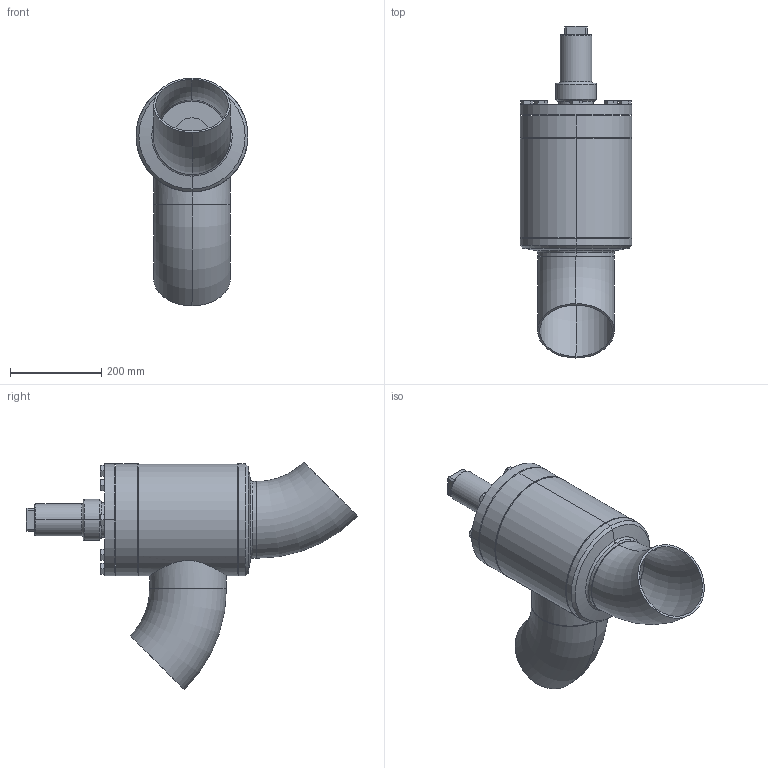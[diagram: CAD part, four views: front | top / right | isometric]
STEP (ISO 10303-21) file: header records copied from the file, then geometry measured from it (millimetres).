
FILE_DESCRIPTION (( 'STEP AP214' ), '1' );
FILE_NAME ('RVA29300D21-DN150_R1_PS40.STEP', '2006-04-28T05:34:26', ( 'Herr Grams' ), ( 'AWP GmbH' ), 'SwSTEP 2.0', 'SolidWorks 2002296', '' );
FILE_SCHEMA (( 'AUTOMOTIVE_DESIGN' ));
Length unit declared in the file: millimetre
Products named in the file (15): RVA29300D21-DN150_R1_PS40; RVA29300E21_Deck-Schr-DN150_Standard; Deckel29300E21-DN150_Standard; Sechskantschraube-DIN933_M16x 45; Kappe16402_DN125-150_Standard; Gehäuse-kpl16300-DN150_R1_Standard; Kopfstück16300-DN150_Standard; Gehäuse16300-DN150_Standard; Rohrstutzen-A16300-DN150_R1_Standard; Boden16300-DN150_Standard; Rohrbogen 45°_Rohrbogen-DN150-45°; bead-DN150-1_Standard; bead-DN150-3_Standard; bead-DN150-4_Standard; bead-DN150-2_Standard
Assembly tree (24 placements, depth 3):
  RVA29300D21-DN150_R1_PS40
    Gehäuse-kpl16300-DN150_R1_Standard
      Boden16300-DN150_Standard
      bead-DN150-2_Standard
      bead-DN150-1_Standard  x2
      bead-DN150-4_Standard  x2
      Rohrbogen 45°_Rohrbogen-DN150-45°  x2
      Gehäuse16300-DN150_Standard
      Kopfstück16300-DN150_Standard
      Rohrstutzen-A16300-DN150_R1_Standard
      bead-DN150-3_Standard
    RVA29300E21_Deck-Schr-DN150_Standard
      Sechskantschraube-DIN933_M16x 45  x8
      Deckel29300E21-DN150_Standard
    Kappe16402_DN125-150_Standard
Bounding box: 245.28 x 727.43 x 499.01 mm (x, y, z)
Volume: 7008567.2 mm3; surface area: 1387172.9 mm2
Topology: 22 solids, 22 shells, 377 faces, 794 edges, 478 vertices
Faces by surface type: cone 126, plane 118, cylinder 89, bspline 24, torus 20
Entity records: 8507 total; most frequent: CARTESIAN_POINT 3661, DIRECTION 888, ORIENTED_EDGE 788, EDGE_CURVE 394, AXIS2_PLACEMENT_3D 389, VERTEX_POINT 244, EDGE_LOOP 230, CIRCLE 192
